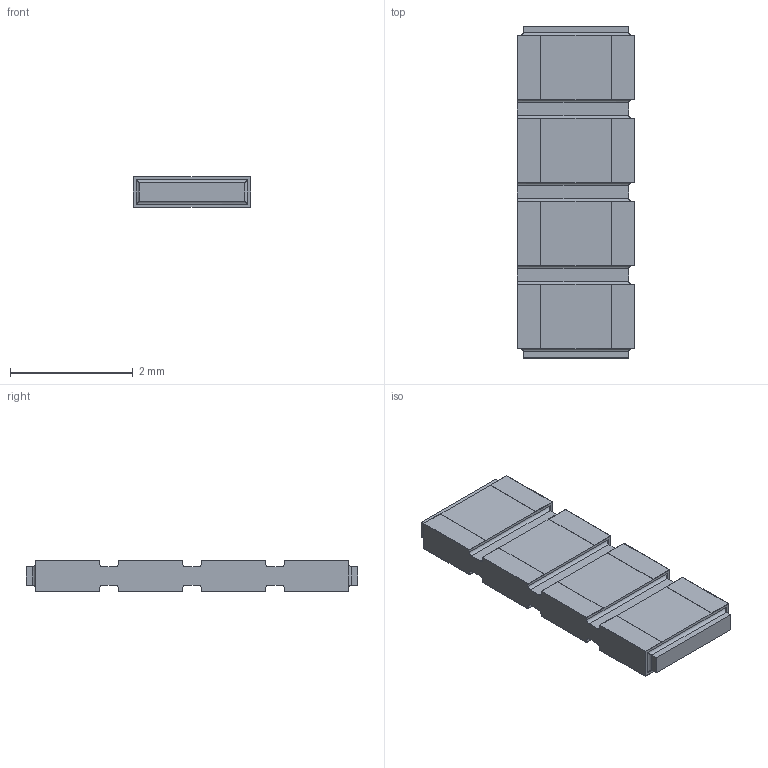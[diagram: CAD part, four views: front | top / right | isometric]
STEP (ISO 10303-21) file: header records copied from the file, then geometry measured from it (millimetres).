
FILE_DESCRIPTION(/* description */ (''),/* implementation_level */ '2;1');
FILE_NAME(/* name */ 'S:\DOCUMENT\AUTOCAD\3D_Modèles\10_3D-pour-VISHAY-COM\PRA\PRA135\PRA135-C2_à_C8\20_STEP\PRA135C4_B-or-N-or-G.stp',/* time_stamp */ '2017-12-18T12:02:39+01:00',/* author */ ('dparmentier'),/* organization */ ('unknown'),/* preprocessor_version */ 'ST-DEVELOPER v17',/* originating_system */ 'Autodesk Inventor 2018',/* authorisation */ '');
FILE_SCHEMA (('AUTOMOTIVE_DESIGN { 1 0 10303 214 3 1 1 }'));
Length unit declared in the file: millimetre
Products named in the file (1): PRA135C4_B-or-N-or-G
Bounding box: 1.91 x 5.4 x 0.5 mm (x, y, z)
Volume: 4.6 mm3; surface area: 50.3 mm2
Topology: 6 solids, 6 shells, 164 faces, 430 edges, 280 vertices
Faces by surface type: plane 126, cylinder 38
Entity records: 5018 total; most frequent: CARTESIAN_POINT 875, ORIENTED_EDGE 860, DIRECTION 816, EDGE_CURVE 430, LINE 374, VECTOR 374, VERTEX_POINT 280, AXIS2_PLACEMENT_3D 221
